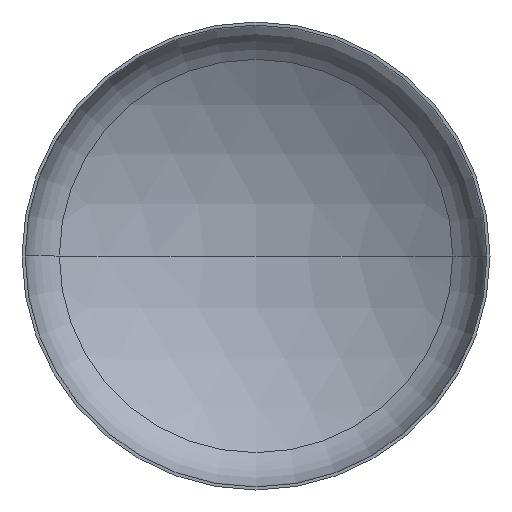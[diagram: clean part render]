
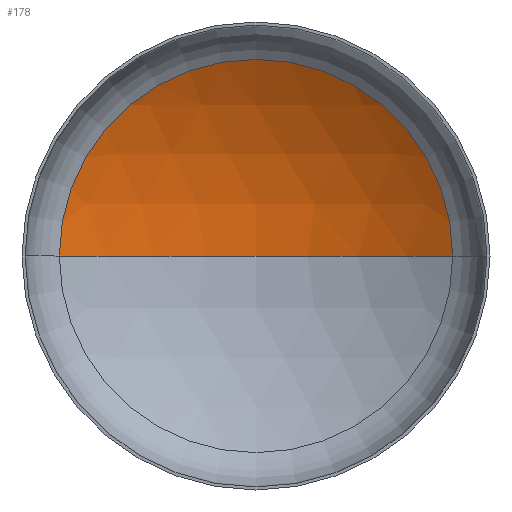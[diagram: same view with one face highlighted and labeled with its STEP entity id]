
A CAD part, front view. The second image highlights one B-rep face of the part: STEP entity #178.
In plain terms, the highlighted spherical face has radius 5600 mm.
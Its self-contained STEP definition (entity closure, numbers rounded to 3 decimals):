
#6 = VERTEX_POINT ( 'NONE', #193 ) ;
#23 = CIRCLE ( 'NONE', #87, 5600. ) ;
#41 = VERTEX_POINT ( 'NONE', #156 ) ;
#42 = AXIS2_PLACEMENT_3D ( 'NONE', #397, #376, #321 ) ;
#50 = ORIENTED_EDGE ( 'NONE', *, *, #148, .T. ) ;
#51 = EDGE_LOOP ( 'NONE', ( #95, #59, #50 ) ) ;
#59 = ORIENTED_EDGE ( 'NONE', *, *, #150, .T. ) ;
#82 = AXIS2_PLACEMENT_3D ( 'NONE', #198, #232, #325 ) ;
#87 = AXIS2_PLACEMENT_3D ( 'NONE', #370, #369, #289 ) ;
#88 = AXIS2_PLACEMENT_3D ( 'NONE', #287, #251, #338 ) ;
#95 = ORIENTED_EDGE ( 'NONE', *, *, #155, .F. ) ;
#97 = VERTEX_POINT ( 'NONE', #225 ) ;
#148 = EDGE_CURVE ( 'NONE', #97, #6, #315, .T. ) ;
#150 = EDGE_CURVE ( 'NONE', #41, #97, #23, .T. ) ;
#155 = EDGE_CURVE ( 'NONE', #41, #6, #309, .T. ) ;
#156 = CARTESIAN_POINT ( 'NONE',  ( 0., 1893.635, 0. ) ) ;
#178 = ADVANCED_FACE ( 'NONE', ( #299 ), #403, .F. ) ;
#193 = CARTESIAN_POINT ( 'NONE',  ( -2941.239, 1059.043, 0. ) ) ;
#198 = CARTESIAN_POINT ( 'NONE',  ( 0., -3706.365, 0. ) ) ;
#225 = CARTESIAN_POINT ( 'NONE',  ( 2941.239, 1059.043, 0. ) ) ;
#232 = DIRECTION ( 'NONE',  ( 0., 0., 1. ) ) ;
#251 = DIRECTION ( 'NONE',  ( 0., -1., 0. ) ) ;
#287 = CARTESIAN_POINT ( 'NONE',  ( 0., 1059.043, 0. ) ) ;
#289 = DIRECTION ( 'NONE',  ( -1., 0., 0. ) ) ;
#299 = FACE_OUTER_BOUND ( 'NONE', #51, .T. ) ;
#309 = CIRCLE ( 'NONE', #82, 5600. ) ;
#315 = CIRCLE ( 'NONE', #88, 2941.239 ) ;
#321 = DIRECTION ( 'NONE',  ( -1., 0., 0. ) ) ;
#325 = DIRECTION ( 'NONE',  ( 1., 0., 0. ) ) ;
#338 = DIRECTION ( 'NONE',  ( 1., 0., 0. ) ) ;
#369 = DIRECTION ( 'NONE',  ( 0., 0., -1. ) ) ;
#370 = CARTESIAN_POINT ( 'NONE',  ( 0., -3706.365, 0. ) ) ;
#376 = DIRECTION ( 'NONE',  ( 0., 0., -1. ) ) ;
#397 = CARTESIAN_POINT ( 'NONE',  ( 0., -3706.365, 0. ) ) ;
#403 = SPHERICAL_SURFACE ( 'NONE', #42, 5600. ) ;
